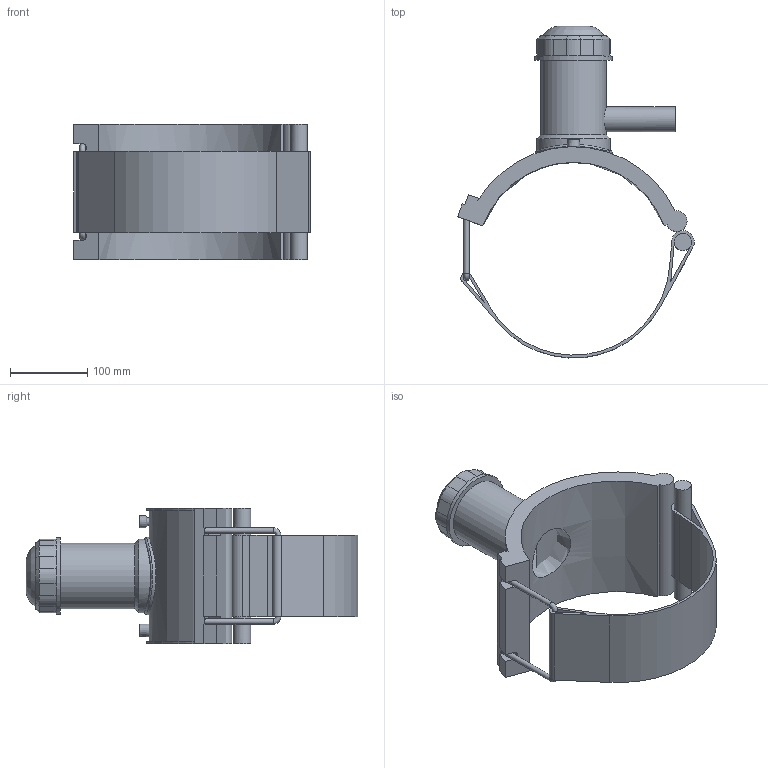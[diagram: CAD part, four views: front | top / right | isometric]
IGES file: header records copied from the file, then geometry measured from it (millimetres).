
Global section: file name: 496304250032.ipt; native system: Autodesk Inventor 2015; preprocessor: unknown; author: KIM; date: 20190124.131244; units: millimetre
Bounding box: 307.08 x 430.55 x 176 mm (x, y, z)
Volume: 1954621.3 mm3; surface area: 381656.2 mm2
Topology: 2 solids, 2 shells, 121 faces, 301 edges, 191 vertices
Faces by surface type: plane 68, cylinder 29, revolution 12, cone 11, bspline 1
Full cylindrical faces by diameter (mm): 4 x2, 7 x2, 22.115 x1, 32 x1, 85 x1, 95 x1, 100 x2
